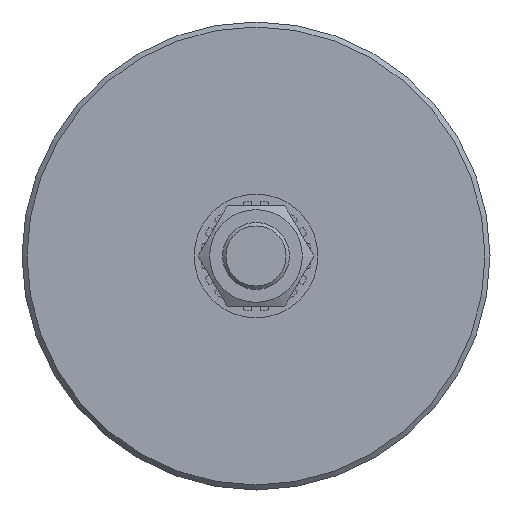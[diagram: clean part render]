
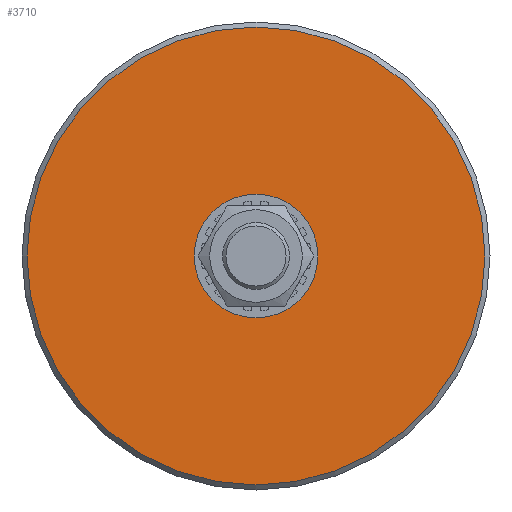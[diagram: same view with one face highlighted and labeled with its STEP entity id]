
A CAD part, left-side view. The second image highlights one B-rep face of the part: STEP entity #3710.
In plain terms, the highlighted planar face has unit normal (-1, 0, 0).
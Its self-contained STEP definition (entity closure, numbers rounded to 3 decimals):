
#636=PLANE('',#3956);
#838=FACE_BOUND('',#1143,.T.);
#915=FACE_OUTER_BOUND('',#1142,.T.);
#1142=EDGE_LOOP('',(#2623));
#1143=EDGE_LOOP('',(#2624));
#1397=CIRCLE('',#3922,68.5);
#1415=CIRCLE('',#3955,17.75);
#1653=VERTEX_POINT('',#5639);
#1671=VERTEX_POINT('',#5720);
#2037=EDGE_CURVE('',#1653,#1653,#1397,.T.);
#2056=EDGE_CURVE('',#1671,#1671,#1415,.T.);
#2623=ORIENTED_EDGE('',*,*,#2037,.F.);
#2624=ORIENTED_EDGE('',*,*,#2056,.T.);
#3710=ADVANCED_FACE('',(#915,#838),#636,.T.);
#3922=AXIS2_PLACEMENT_3D('',#5640,#4423,#4424);
#3955=AXIS2_PLACEMENT_3D('',#5721,#4489,#4490);
#3956=AXIS2_PLACEMENT_3D('',#5722,#4491,#4492);
#4423=DIRECTION('center_axis',(1.,0.,0.));
#4424=DIRECTION('ref_axis',(0.,1.,0.));
#4489=DIRECTION('center_axis',(1.,0.,0.));
#4490=DIRECTION('ref_axis',(0.,1.,0.));
#4491=DIRECTION('center_axis',(-1.,0.,0.));
#4492=DIRECTION('ref_axis',(0.,0.,1.));
#5639=CARTESIAN_POINT('',(-15.,68.5,0.));
#5640=CARTESIAN_POINT('Origin',(-15.,0.,0.));
#5720=CARTESIAN_POINT('',(-15.,17.75,0.));
#5721=CARTESIAN_POINT('Origin',(-15.,0.,0.));
#5722=CARTESIAN_POINT('Origin',(-15.,43.125,0.));
